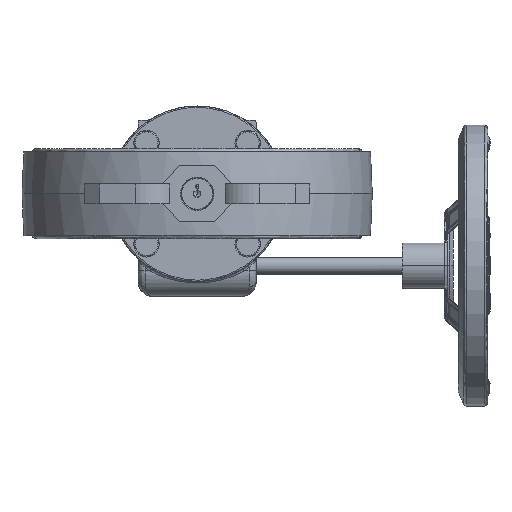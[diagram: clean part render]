
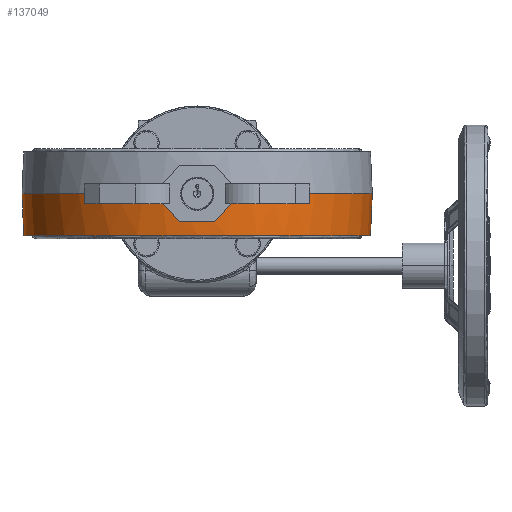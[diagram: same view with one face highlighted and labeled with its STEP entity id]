
A CAD part, front view. The second image highlights one B-rep face of the part: STEP entity #137049.
In plain terms, the highlighted conical face has half-angle 2.406 degrees and reference radius 123.5 mm.
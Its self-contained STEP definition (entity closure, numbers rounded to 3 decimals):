
#718 = CARTESIAN_POINT ( 'NONE',  ( 67.864, -104.325, -7. ) ) ;
#1211 = CARTESIAN_POINT ( 'NONE',  ( 67.562, -104.871, 0. ) ) ;
#1798 = DIRECTION ( 'NONE',  ( 0., 0., -1. ) ) ;
#5747 = CIRCLE ( 'NONE', #79213, 124.456 ) ;
#6378 = ORIENTED_EDGE ( 'NONE', *, *, #95689, .F. ) ;
#9126 = VECTOR ( 'NONE', #130062, 1000. ) ;
#10361 = VERTEX_POINT ( 'NONE', #59946 ) ;
#10532 = DIRECTION ( 'NONE',  ( 0., 0., 1. ) ) ;
#11437 = EDGE_LOOP ( 'NONE', ( #16022, #122186, #30707, #60357, #21316, #51479, #138426, #6378, #29172, #65797, #101845, #53876 ) ) ;
#11926 = DIRECTION ( 'NONE',  ( 0., 0., -1. ) ) ;
#12419 = CARTESIAN_POINT ( 'NONE',  ( 0., 0., -7. ) ) ;
#13710 = AXIS2_PLACEMENT_3D ( 'NONE', #118674, #141240, #30175 ) ;
#14816 =( BOUNDED_CURVE ( )  B_SPLINE_CURVE ( 3, ( #92672, #103478, #125558, #80863 ),
 .UNSPECIFIED., .F., .F. ) 
 B_SPLINE_CURVE_WITH_KNOTS ( ( 4, 4 ),
 ( 4.768, 4.866 ),
 .UNSPECIFIED. ) 
 CURVE ( )  GEOMETRIC_REPRESENTATION_ITEM ( )  RATIONAL_B_SPLINE_CURVE ( ( 1., 0.999, 0.999, 1. ) ) 
 REPRESENTATION_ITEM ( '' )  );
#16022 = ORIENTED_EDGE ( 'NONE', *, *, #30384, .F. ) ;
#17406 = EDGE_CURVE ( 'NONE', #71476, #90985, #46785, .T. ) ;
#17484 = EDGE_CURVE ( 'NONE', #71476, #10361, #141248, .T. ) ;
#17752 = VERTEX_POINT ( 'NONE', #57110 ) ;
#21316 = ORIENTED_EDGE ( 'NONE', *, *, #78586, .F. ) ;
#21434 = CARTESIAN_POINT ( 'NONE',  ( 0., 0., -29.75 ) ) ;
#22153 = VERTEX_POINT ( 'NONE', #28237 ) ;
#23956 = CARTESIAN_POINT ( 'NONE',  ( 0., 0., -7. ) ) ;
#24348 = AXIS2_PLACEMENT_3D ( 'NONE', #21434, #10532, #77034 ) ;
#24810 = CARTESIAN_POINT ( 'NONE',  ( 0., 0., 0. ) ) ;
#24875 = FACE_OUTER_BOUND ( 'NONE', #11437, .T. ) ;
#25325 = VERTEX_POINT ( 'NONE', #36701 ) ;
#26153 = CARTESIAN_POINT ( 'NONE',  ( -123.5, 0., -29.75 ) ) ;
#26291 = CARTESIAN_POINT ( 'NONE',  ( -67.562, -104.871, 0. ) ) ;
#26906 = LINE ( 'NONE', #118269, #9126 ) ;
#28237 = CARTESIAN_POINT ( 'NONE',  ( -24.5, -122.021, -7. ) ) ;
#29172 = ORIENTED_EDGE ( 'NONE', *, *, #61653, .F. ) ;
#29971 = AXIS2_PLACEMENT_3D ( 'NONE', #24810, #58740, #59238 ) ;
#30175 = DIRECTION ( 'NONE',  ( 1., 0., 0. ) ) ;
#30384 = EDGE_CURVE ( 'NONE', #143942, #90985, #114327, .T. ) ;
#30707 = ORIENTED_EDGE ( 'NONE', *, *, #47975, .T. ) ;
#33735 = CIRCLE ( 'NONE', #126998, 124.456 ) ;
#35380 = CARTESIAN_POINT ( 'NONE',  ( -20.522, -122.635, -11.309 ) ) ;
#36701 = CARTESIAN_POINT ( 'NONE',  ( 67.864, -104.325, -7. ) ) ;
#40725 = CARTESIAN_POINT ( 'NONE',  ( 0., 0., 0. ) ) ;
#43820 = CARTESIAN_POINT ( 'NONE',  ( -123.5, 0., -29.75 ) ) ;
#44699 = DIRECTION ( 'NONE',  ( 0., 0., -1. ) ) ;
#45204 = CARTESIAN_POINT ( 'NONE',  ( 0., 0., -29.75 ) ) ;
#46010 = CARTESIAN_POINT ( 'NONE',  ( 67.658, -104.685, -2.494 ) ) ;
#46736 = CARTESIAN_POINT ( 'NONE',  ( -16.519, -123.054, -15.646 ) ) ;
#46785 = CIRCLE ( 'NONE', #29971, 124.75 ) ;
#47070 = CARTESIAN_POINT ( 'NONE',  ( 12.5, -123.278, -20. ) ) ;
#47975 = EDGE_CURVE ( 'NONE', #68790, #86265, #26906, .T. ) ;
#48462 = CARTESIAN_POINT ( 'NONE',  ( 24.5, -122.021, -7. ) ) ;
#51479 = ORIENTED_EDGE ( 'NONE', *, *, #81427, .T. ) ;
#53876 = ORIENTED_EDGE ( 'NONE', *, *, #17406, .T. ) ;
#56436 = AXIS2_PLACEMENT_3D ( 'NONE', #40725, #85961, #85483 ) ;
#57110 = CARTESIAN_POINT ( 'NONE',  ( -12.5, -123.278, -20. ) ) ;
#58024 = CARTESIAN_POINT ( 'NONE',  ( -12.5, -123.278, -20. ) ) ;
#58740 = DIRECTION ( 'NONE',  ( 0., 0., -1. ) ) ;
#59238 = DIRECTION ( 'NONE',  ( -1., 0., 0. ) ) ;
#59793 = CIRCLE ( 'NONE', #13710, 123.91 ) ;
#59946 = CARTESIAN_POINT ( 'NONE',  ( -67.864, -104.325, -7. ) ) ;
#60357 = ORIENTED_EDGE ( 'NONE', *, *, #138150, .T. ) ;
#60697 = CARTESIAN_POINT ( 'NONE',  ( -67.864, -104.325, -7. ) ) ;
#61653 = EDGE_CURVE ( 'NONE', #22153, #17752, #112401, .T. ) ;
#65797 = ORIENTED_EDGE ( 'NONE', *, *, #119700, .T. ) ;
#67805 = CARTESIAN_POINT ( 'NONE',  ( -124.75, 0., 0. ) ) ;
#68790 = VERTEX_POINT ( 'NONE', #100851 ) ;
#69686 = DIRECTION ( 'NONE',  ( 1., 0., 0. ) ) ;
#71476 = VERTEX_POINT ( 'NONE', #125081 ) ;
#72237 = VECTOR ( 'NONE', #93994, 1000. ) ;
#77034 = DIRECTION ( 'NONE',  ( 1., 0., 0. ) ) ;
#78023 = EDGE_CURVE ( 'NONE', #68790, #143942, #145516, .T. ) ;
#78586 = EDGE_CURVE ( 'NONE', #25325, #87994, #135912, .T. ) ;
#79213 = AXIS2_PLACEMENT_3D ( 'NONE', #12419, #11926, #125997 ) ;
#80141 = CARTESIAN_POINT ( 'NONE',  ( -24.5, -122.021, -7. ) ) ;
#80863 = CARTESIAN_POINT ( 'NONE',  ( 24.5, -122.021, -7. ) ) ;
#81427 = EDGE_CURVE ( 'NONE', #25325, #95628, #5747, .T. ) ;
#82110 = CARTESIAN_POINT ( 'NONE',  ( 67.562, -104.871, 0. ) ) ;
#85483 = DIRECTION ( 'NONE',  ( -1., 0., 0. ) ) ;
#85961 = DIRECTION ( 'NONE',  ( 0., 0., -1. ) ) ;
#86265 = VERTEX_POINT ( 'NONE', #121555 ) ;
#87994 = VERTEX_POINT ( 'NONE', #82110 ) ;
#88476 = AXIS2_PLACEMENT_3D ( 'NONE', #45204, #44699, #100273 ) ;
#90985 = VERTEX_POINT ( 'NONE', #67805 ) ;
#92672 = CARTESIAN_POINT ( 'NONE',  ( 12.5, -123.278, -20. ) ) ;
#93994 = DIRECTION ( 'NONE',  ( -0.042, 0., 0.999 ) ) ;
#95628 = VERTEX_POINT ( 'NONE', #48462 ) ;
#95689 = EDGE_CURVE ( 'NONE', #17752, #105241, #59793, .T. ) ;
#100273 = DIRECTION ( 'NONE',  ( 1., 0., 0. ) ) ;
#100851 = CARTESIAN_POINT ( 'NONE',  ( 123.5, 0., -29.75 ) ) ;
#101845 = ORIENTED_EDGE ( 'NONE', *, *, #17484, .F. ) ;
#103478 = CARTESIAN_POINT ( 'NONE',  ( 16.519, -123.054, -15.646 ) ) ;
#105241 = VERTEX_POINT ( 'NONE', #47070 ) ;
#112401 =( BOUNDED_CURVE ( )  B_SPLINE_CURVE ( 3, ( #80141, #35380, #46736, #58024 ),
 .UNSPECIFIED., .F., .F. ) 
 B_SPLINE_CURVE_WITH_KNOTS ( ( 4, 4 ),
 ( 1.417, 1.515 ),
 .UNSPECIFIED. ) 
 CURVE ( )  GEOMETRIC_REPRESENTATION_ITEM ( )  RATIONAL_B_SPLINE_CURVE ( ( 1., 0.999, 0.999, 1. ) ) 
 REPRESENTATION_ITEM ( '' )  );
#113291 = CARTESIAN_POINT ( 'NONE',  ( 67.758, -104.503, -4.827 ) ) ;
#114327 = LINE ( 'NONE', #26153, #72237 ) ;
#117684 = CARTESIAN_POINT ( 'NONE',  ( -67.758, -104.503, -4.827 ) ) ;
#118168 = CARTESIAN_POINT ( 'NONE',  ( -67.658, -104.685, -2.494 ) ) ;
#118269 = CARTESIAN_POINT ( 'NONE',  ( 123.5, 0., -29.75 ) ) ;
#118674 = CARTESIAN_POINT ( 'NONE',  ( 0., 0., -20. ) ) ;
#119700 = EDGE_CURVE ( 'NONE', #22153, #10361, #33735, .T. ) ;
#121555 = CARTESIAN_POINT ( 'NONE',  ( 124.75, 0., 0. ) ) ;
#122186 = ORIENTED_EDGE ( 'NONE', *, *, #78023, .F. ) ;
#125081 = CARTESIAN_POINT ( 'NONE',  ( -67.562, -104.871, 0. ) ) ;
#125558 = CARTESIAN_POINT ( 'NONE',  ( 20.522, -122.635, -11.309 ) ) ;
#125997 = DIRECTION ( 'NONE',  ( 1., 0., 0. ) ) ;
#126998 = AXIS2_PLACEMENT_3D ( 'NONE', #23956, #1798, #69686 ) ;
#130062 = DIRECTION ( 'NONE',  ( 0.042, 0., 0.999 ) ) ;
#131951 = CIRCLE ( 'NONE', #56436, 124.75 ) ;
#135912 = B_SPLINE_CURVE_WITH_KNOTS ( 'NONE', 3,
 ( #718, #113291, #46010, #1211 ),
 .UNSPECIFIED., .F., .F.,
 ( 4, 4 ),
 ( 0., 1. ),
 .UNSPECIFIED. ) ;
#137049 = ADVANCED_FACE ( 'NONE', ( #24875 ), #139097, .T. ) ;
#138150 = EDGE_CURVE ( 'NONE', #86265, #87994, #131951, .T. ) ;
#138426 = ORIENTED_EDGE ( 'NONE', *, *, #145923, .F. ) ;
#139097 = CONICAL_SURFACE ( 'NONE', #24348, 123.5, 0.042 ) ;
#141240 = DIRECTION ( 'NONE',  ( 0., 0., 1. ) ) ;
#141248 = B_SPLINE_CURVE_WITH_KNOTS ( 'NONE', 3,
 ( #26291, #118168, #117684, #60697 ),
 .UNSPECIFIED., .F., .F.,
 ( 4, 4 ),
 ( 0., 1. ),
 .UNSPECIFIED. ) ;
#143942 = VERTEX_POINT ( 'NONE', #43820 ) ;
#145516 = CIRCLE ( 'NONE', #88476, 123.5 ) ;
#145923 = EDGE_CURVE ( 'NONE', #105241, #95628, #14816, .T. ) ;
